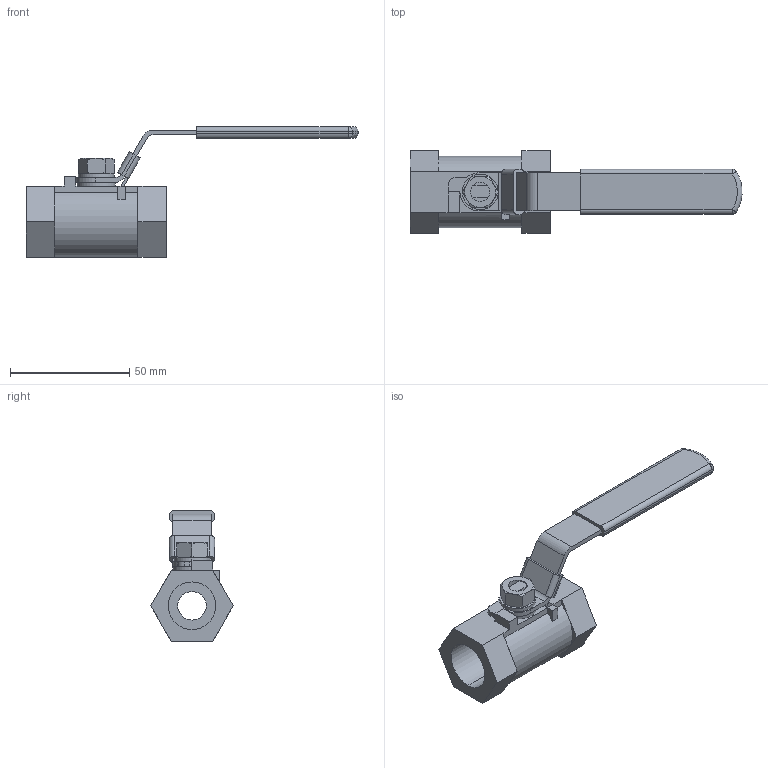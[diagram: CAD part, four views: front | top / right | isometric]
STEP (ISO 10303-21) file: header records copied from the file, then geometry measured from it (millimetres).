
FILE_DESCRIPTION( (''), '2;1');
FILE_NAME ('PC1276.13404.BLV-1S 20A_17498.stp','2025-09-19T13:29:06',(''),(''),'spGate 20.6.3 (****-****-****-****)','','');
FILE_SCHEMA (('AUTOMOTIVE_DESIGN'));
Length unit declared in the file: millimetre
Products named in the file (6): Assembly; CP_''_JIS B 1256 並形-部品等級A 8''_17240; CP_''_JIS B 1256 小形-部品等級A 8''_17239; CP_''_JIS B 1181 六角ナット 2種 上 ''_700; BLV-1S ハンドル 15A; BLV-1S 20A 本体
Assembly tree (5 placements, depth 2):
  Assembly
    CP_''_JIS B 1256 並形-部品等級A 8''_17240
    CP_''_JIS B 1256 小形-部品等級A 8''_17239
    CP_''_JIS B 1181 六角ナット 2種 上 ''_700
    BLV-1S ハンドル 15A
    BLV-1S 20A 本体
Bounding box: 139.45 x 34.64 x 55 mm (x, y, z)
Volume: 39183.6 mm3; surface area: 18253 mm2
Topology: 5 solids, 5 shells, 148 faces, 360 edges, 224 vertices
Faces by surface type: plane 86, cylinder 44, bspline 14, sphere 4
Entity records: 7518 total; most frequent: CARTESIAN_POINT 1014, DIRECTION 720, ORIENTED_EDGE 712, COLOUR_RGB 509, PRESENTATION_STYLE_ASSIGNMENT 509, STYLED_ITEM 509, EDGE_CURVE 356, DRAUGHTING_PRE_DEFINED_CURVE_FONT 356
